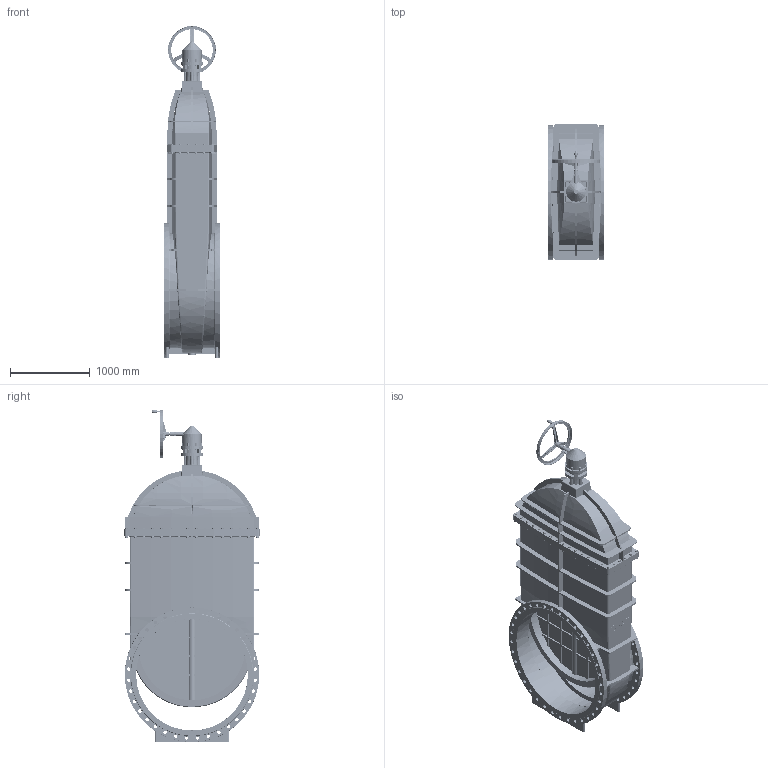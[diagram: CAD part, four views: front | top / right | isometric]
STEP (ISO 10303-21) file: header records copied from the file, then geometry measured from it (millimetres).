
FILE_DESCRIPTION(('STEP AP242'), '1');
FILE_NAME('青溻桄赅', '', ('UNSPECIFIED'), ('UNSPECIFIED'), 'C3D Converter', 'C3D Toolkit', '');
FILE_SCHEMA(('AP242_MANAGED_MODEL_BASED_3D_ENGINEERING_MIM_LF { 1 0 10303 442 1 1 4 }'));
Length unit declared in the file: millimetre
Assembly tree (267 placements, depth 2):
  (unnamed)
    (unnamed)
    (unnamed)
    (unnamed)
    (unnamed)  x2
    (unnamed)
    (unnamed)
    (unnamed)
    (unnamed)
    (unnamed)
    (unnamed)  x40
    (unnamed)  x80
    (unnamed)  x80
    (unnamed)  x40
    (unnamed)  x4
    (unnamed)  x8
    (unnamed)  x4
    (unnamed)
Bounding box: 710 x 1694 x 4156.5 mm (x, y, z)
Volume: 291670611.3 mm3; surface area: 40741768.8 mm2
Topology: 272 solids, 273 shells, 4150 faces, 10247 edges, 6745 vertices
Faces by surface type: plane 2346, cylinder 955, cone 540, extrusion 127, torus 103, bspline 79
Full cylindrical faces by diameter (mm): 4.917 x1, 5 x4, 6 x23, 8 x24, 10 x4, 12 x8, 13 x8, 14 x4, 16 x12, 17.294 x40, 18 x4, 20 x45, 22 x200, 24 x4, 30 x40, 34 x80, 40 x1, 44 x72, 56 x9, 60 x3, 92 x1, 96 x5, 101.617 x1, 205.111 x2, 245.384 x1, 285.657 x3, 520 x1, 530 x1, 590 x1, 600 x1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
Entity records: 88558 total; most frequent: CARTESIAN_POINT 34705, DIRECTION 9505, ORIENTED_EDGE 8511, EDGE_CURVE 4696, AXIS2_PLACEMENT_3D 3737, VERTEX_POINT 3639, EDGE_LOOP 2462, CIRCLE 2105
